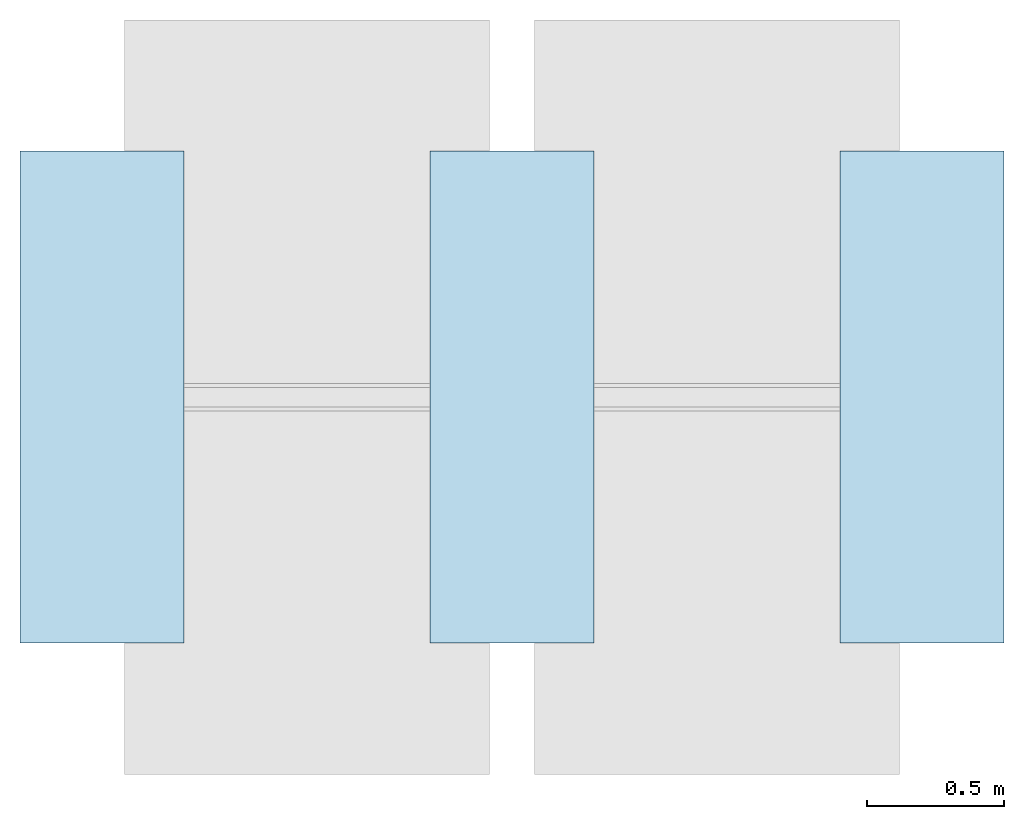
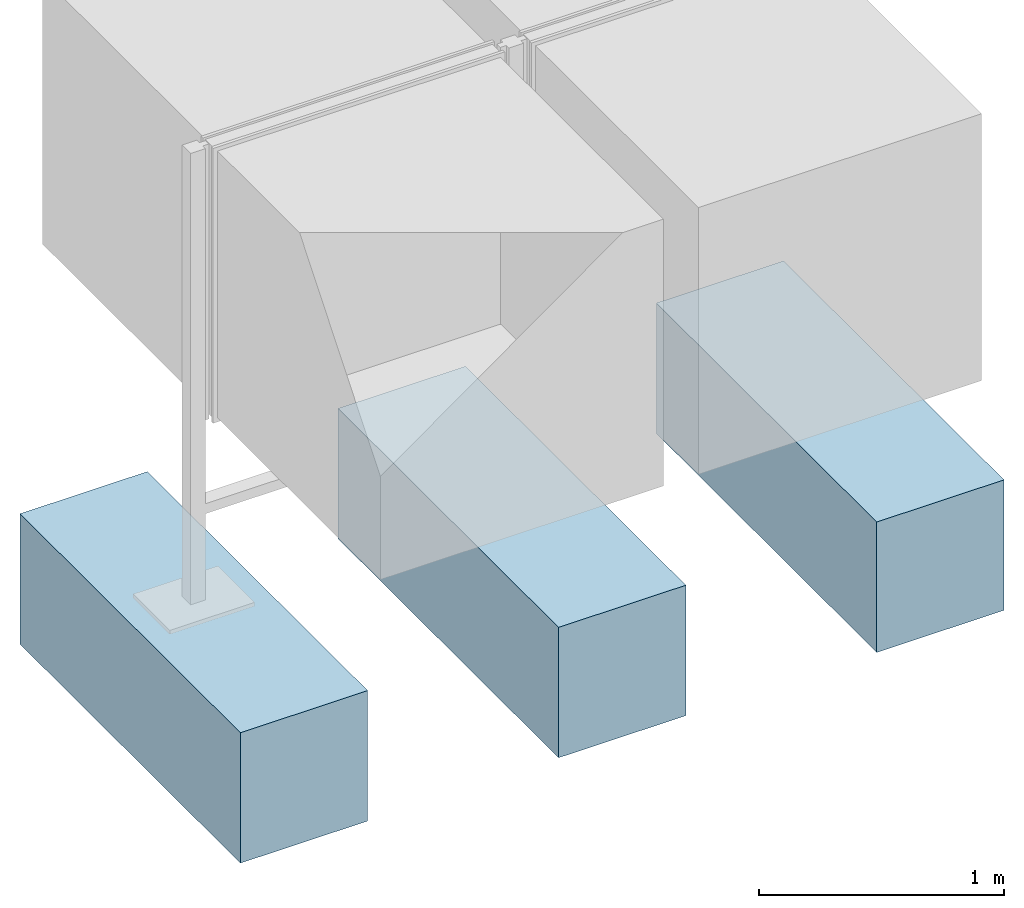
# One storey, incomplete: 3 slabs.
"""IFC4 building model written with IfcOpenShell, lengths in metres."""

from ifc_helpers import new_model, entity, si_unit, converted_unit, direction, frame, frame_2d, origin, origin_2d_with_axis, place, context, subcontext, project, spatial, rectangle, extrude, material, type_object, element, save


model = new_model("IFC4")

# Units and contexts
model_context = context("Model", 3, precision=1e-05, world=origin(), true_north=direction((6.123031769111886e-17, 1.0)))
body_context = subcontext(model_context, "Body", "Model", "MODEL_VIEW")
ifc_project = project(units=[si_unit("LENGTHUNIT", "METRE"), converted_unit("PLANEANGLEUNIT", "DEGREE", entity("IfcPlaneAngleMeasure", 0.017453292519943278), si_unit("PLANEANGLEUNIT", "RADIAN"), dimensions=[0, 0, 0, 0, 0, 0, 0]), si_unit("AREAUNIT", "SQUARE_METRE")], contexts=[model_context])

# Site, building, storey
site_placement = place(None, origin())
site = spatial("IfcSite", under=ifc_project, at=site_placement, Name="Default", CompositionType="ELEMENT")
building_placement = place(site_placement, origin())
building = spatial("IfcBuilding", under=site, at=building_placement, CompositionType="ELEMENT")
storey_placement = place(building_placement, origin())
storey = spatial("IfcBuildingStorey", under=building, at=storey_placement, Name="DB_Bezugshoehe_max_Bahnsteigkante", CompositionType="ELEMENT", Elevation=0.0)

# Slabs
ifc_material = material(Name="DB_Ortbeton", Category="DB_Beton")
slab_type = type_object("IfcSlabType", Name="DB_Vitrine_Fundament:DB_Vitrine_Fundament", PredefinedType="BASESLAB", material=ifc_material)
slab_1_placement = place(storey_placement, origin())
element("IfcSlab", 1, at=slab_1_placement, inside=storey, type_object=slab_type, Name="DB_Vitrine_Fundament:DB_Vitrine_Fundament", ObjectType="DB_Vitrine_Fundament:DB_Vitrine_Fundament", PredefinedType="BASESLAB", context=body_context, shape_type="SweptSolid", body=[
    extrude(rectangle(XDim=1.8, YDim=0.5999999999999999, at=origin_2d_with_axis()), frame((0.0, 0.0, 0.04999999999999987), z_axis=(0.0, 0.0, 1.0), x_axis=(0.0, 1.0, 0.0)), (0.0, 0.0, 1.0), 0.5999999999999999),
    extrude(rectangle(XDim=0.5999999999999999, YDim=1.7999999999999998, at=origin_2d_with_axis()), frame((0.0, 0.0, 0.0), z_axis=(0.0, 0.0, 1.0), x_axis=(-1.0, 0.0, 0.0)), (0.0, 0.0, 1.0), 0.04999999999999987),
])
slab_2_placement = place(storey_placement, origin())
element("IfcSlab", 2, at=slab_2_placement, inside=storey, type_object=slab_type, Name="DB_Vitrine_Fundament:DB_Vitrine_Fundament", ObjectType="DB_Vitrine_Fundament:DB_Vitrine_Fundament", PredefinedType="BASESLAB", context=body_context, shape_type="SweptSolid", body=[
    extrude(rectangle(XDim=1.8, YDim=0.5999999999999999, at=frame_2d((0.0, -8.326672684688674e-17), x_axis=(1.0, 0.0))), frame((1.500000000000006, 0.0, 0.04999999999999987), z_axis=(0.0, 0.0, 1.0), x_axis=(0.0, 1.0, 0.0)), (0.0, 0.0, 1.0), 0.5999999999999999),
    extrude(rectangle(XDim=0.6000000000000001, YDim=1.7999999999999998, at=origin_2d_with_axis()), frame((1.500000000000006, 0.0, 0.0), z_axis=(0.0, 0.0, 1.0), x_axis=(-1.0, 0.0, 0.0)), (0.0, 0.0, 1.0), 0.04999999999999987),
])
slab_3_placement = place(storey_placement, origin())
element("IfcSlab", 3, at=slab_3_placement, inside=storey, type_object=slab_type, Name="DB_Vitrine_Fundament:DB_Vitrine_Fundament", ObjectType="DB_Vitrine_Fundament:DB_Vitrine_Fundament", PredefinedType="BASESLAB", context=body_context, shape_type="SweptSolid", body=[
    extrude(rectangle(XDim=1.8, YDim=0.6000000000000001, at=origin_2d_with_axis()), frame((3.0, 0.0, 0.04999999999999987), z_axis=(0.0, 0.0, 1.0), x_axis=(0.0, 1.0, 0.0)), (0.0, 0.0, 1.0), 0.5999999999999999),
    extrude(rectangle(XDim=0.6000000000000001, YDim=1.7999999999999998, at=origin_2d_with_axis()), frame((3.0, 0.0, 0.0), z_axis=(0.0, 0.0, 1.0), x_axis=(-1.0, 0.0, 0.0)), (0.0, 0.0, 1.0), 0.04999999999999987),
])

save(model, "model.ifc")
